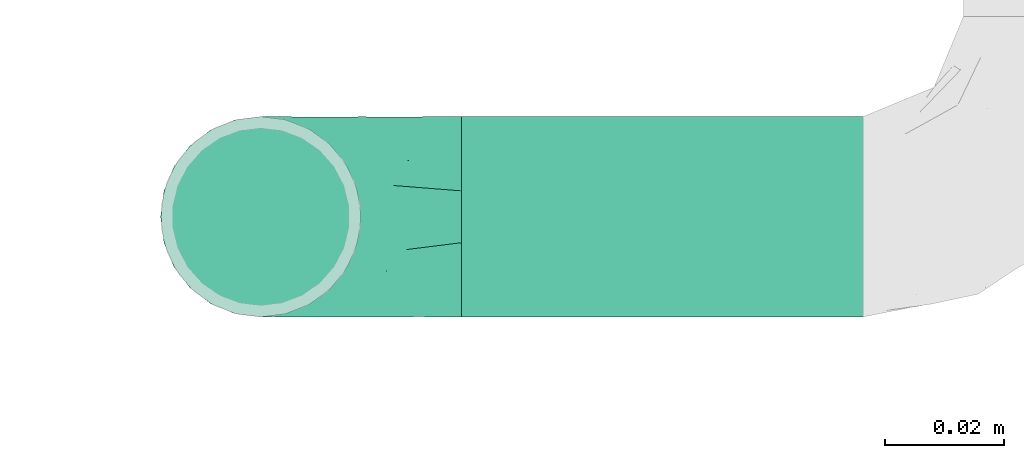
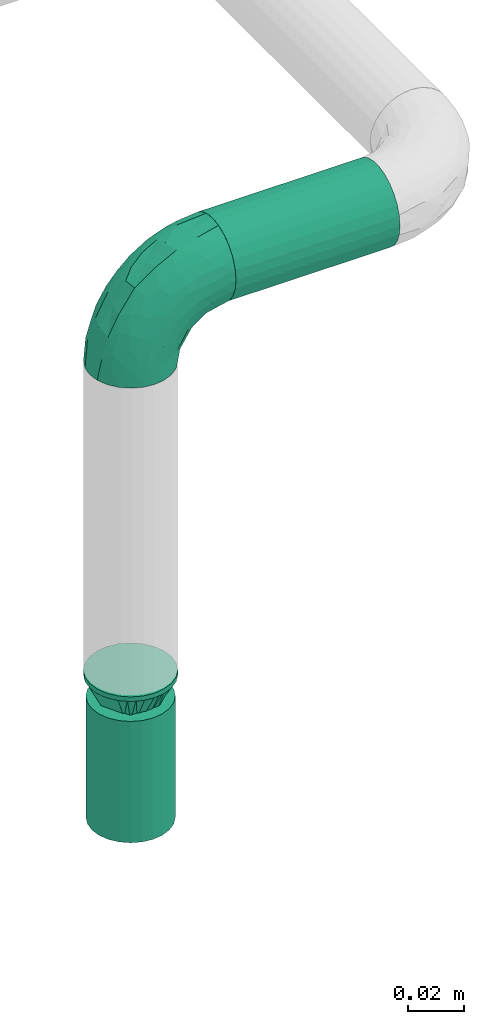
# One storey, part 56 of 157: 2 flow fittings, 1 flow segment, 1 flow terminal.
"""IFC2X3 building model written with IfcOpenShell, lengths in millimetres."""

from ifc_helpers import new_model, entity, si_unit, converted_unit, derived_unit, direction, frame, origin_with_axes, origin_2d_with_axis, place, context, subcontext, project, spatial, hollow_circle, extrude, open_shell, surface_model, source, transform, mapped, type_object, element, save


model = new_model("IFC2X3")

# Units and contexts
model_context = context("Model", 3, precision=0.01, world=frame((0.0, 4.29681676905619e-09, 0.0)), true_north=direction((4.01073788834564e-13, 1.0)))
plan_context = context("Plan", 3, precision=0.01, world=frame((0.0, 4.29681676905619e-09, 0.0)), true_north=direction((4.01073788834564e-13, 1.0)))
body_context = subcontext(model_context, "Body", "Model", "MODEL_VIEW")
ifc_project = project(units=[converted_unit("PLANEANGLEUNIT", "DEGREE", entity("IfcPositiveLengthMeasure", 0.0174532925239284), si_unit("PLANEANGLEUNIT", "RADIAN"), dimensions=[0, 0, 0, 0, 0, 0, 0]), si_unit("AREAUNIT", "SQUARE_METRE"), si_unit("LENGTHUNIT", "METRE", prefix="MILLI"), si_unit("MASSUNIT", "GRAM", prefix="KILO"), si_unit("POWERUNIT", "WATT"), si_unit("PRESSUREUNIT", "PASCAL"), si_unit("FORCEUNIT", "NEWTON", prefix="KILO"), si_unit("ELECTRICCURRENTUNIT", "AMPERE"), si_unit("THERMODYNAMICTEMPERATUREUNIT", "DEGREE_CELSIUS"), si_unit("TIMEUNIT", "SECOND"), si_unit("VOLUMEUNIT", "CUBIC_METRE"), derived_unit("LINEARVELOCITYUNIT", [(si_unit("LENGTHUNIT", "METRE"), 1), (si_unit("TIMEUNIT", "SECOND"), -1)]), derived_unit("VOLUMETRICFLOWRATEUNIT", [(si_unit("VOLUMEUNIT", "CUBIC_METRE"), 1), (si_unit("TIMEUNIT", "SECOND"), -1)]), derived_unit("THERMALTRANSMITTANCEUNIT", [(si_unit("POWERUNIT", "WATT"), 1), (si_unit("THERMODYNAMICTEMPERATUREUNIT", "KELVIN"), -1), (si_unit("AREAUNIT", "SQUARE_METRE"), -1)])], contexts=[model_context, plan_context])

# Site, building, storey
site_placement = place(None, frame((0.0, -4.29681676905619e-09, 0.0), z_axis=(0.0, 0.0, 1.0), x_axis=(1.0, 0.0, 0.0)))
site = spatial("IfcSite", under=ifc_project, at=site_placement, CompositionType="ELEMENT")
building_placement = place(site_placement, frame((0.0, 4.29681676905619e-09, 0.0), z_axis=(0.0, 0.0, 1.0), x_axis=(1.0, 0.0, 0.0)))
building = spatial("IfcBuilding", under=site, at=building_placement, Name="mc-building", CompositionType="ELEMENT")
storey_placement = place(building_placement, frame((0.0, 0.0, 204000.0), z_axis=(0.0, 0.0, 1.0), x_axis=(1.0, 0.0, 0.0)))
storey = spatial("IfcBuildingStorey", under=building, at=storey_placement, Name="Nivå D", CompositionType="ELEMENT", Elevation=204000.0)

# Flow fittings
pipe_fitting_type_1 = type_object("IfcPipeFittingType", Name="magi_pipe_fe_elbow_short_001", PredefinedType="BEND")
shared_shape_1 = source(origin_with_axes(), body_context, "Body", "SurfaceModel", [
    surface_model("IfcShellBasedSurfaceModel", [(-33.8, 8.45, -14.63583), (-33.8, 4.37404, -16.32415), (-33.8, 11.9501, -11.9501), (-33.8, -11.9501, -11.9501), (-33.8, -14.63583, -8.45), (-33.8, -8.45, -14.63583), (-33.8, 0.0, -16.9), (-33.8, -4.37404, -16.32415), (-33.8, -4.37404, 16.32415), (-33.8, 0.0, 16.9), (-33.8, -8.45, 14.63583), (-33.8, 16.32415, -4.37404), (-33.8, 14.63583, -8.45), (-33.8, -16.32415, -4.37404), (-33.8, -16.9, 0.0), (-33.8, -16.32415, 4.37404), (-33.8, 11.9501, 11.9501), (-33.8, 14.63583, 8.45), (-33.8, 16.32415, 4.37404), (-33.8, 4.37404, 16.32415), (-33.8, 8.45, 14.63583), (-33.8, -14.63583, 8.45), (-33.8, -11.9501, 11.9501), (-33.8, 16.9, 0.0), (-11.9501, 33.8, -11.9501), (0.0, 33.8, -16.9), (-4.37404, 33.8, -16.32415), (-8.45, 33.8, -14.63583), (-14.63583, 33.8, -8.45), (-16.32415, 33.8, -4.37404), (14.63583, 33.8, -8.45), (8.45, 33.8, 14.63583), (16.32415, 33.8, -4.37404), (8.45, 33.8, -14.63583), (11.9501, 33.8, -11.9501), (4.37404, 33.8, -16.32415), (16.32415, 33.8, 4.37404), (16.9, 33.8, 0.0), (-11.9501, 33.8, 11.9501), (-16.32415, 33.8, 4.37404), (-14.63583, 33.8, 8.45), (-8.45, 33.8, 14.63583), (-4.37404, 33.8, 16.32415), (11.9501, 33.8, 11.9501), (14.63583, 33.8, 8.45), (0.0, 33.8, 16.9), (4.37404, 33.8, 16.32415), (-16.9, 33.8, 0.0), (-24.79389, -13.12945, 9.48721), (-22.19287, -9.75018, 12.59315), (-24.09897, -14.97035, 0.0), (-14.93934, -10.76256, 8.5297), (-22.46095, -14.75051, 5.27077), (14.75051, 22.46094, 5.27077), (11.9251, 13.23888, 4.33236), (13.04069, 14.39795, 0.0), (7.71387, 13.68847, 11.55891), (9.75018, 22.19287, 12.59315), (4.10169, 13.0571, 14.04018), (-24.84007, -6.39063, 15.2048), (-25.81779, -2.23879, 16.61097), (-23.66549, 2.59054, 16.87119), (-26.50418, 14.06512, 11.08152), (-24.21253, 17.66365, 7.72657), (-29.58514, 15.86957, 7.00283), (-6.17382, -7.5455, 0.0), (-13.23888, -11.9251, 4.33236), (-14.39795, -13.04069, 0.0), (-17.81434, 18.87373, 11.97104), (-6.30846, 29.15138, 15.82987), (-2.31622, 25.28002, 16.85849), (-29.23923, 10.23435, 13.77053), (-1.45439, -2.85688, 7.61475), (-0.28326, 0.34872, 10.09509), (-5.74484, -4.04709, 10.4122), (-4.41137, 11.31918, 16.59407), (-8.39727, 3.10034, 15.7812), (-1.72649, 9.1306, 15.53089), (-17.39909, 24.75344, 7.64977), (-26.19233, 20.0512, 0.0), (-28.14518, 17.29657, 4.25857), (-26.05147, 6.6281, 15.96447), (-5.87354, 16.61944, 16.86968), (-12.51807, 12.51807, 16.48937), (-10.06312, 7.38516, 16.81295), (-3.01882, 3.01882, 13.81718), (-13.0571, -4.10169, 14.04018), (-16.82553, -0.15166, 16.38038), (10.76256, 14.93934, 8.5297), (13.12945, 24.79389, 9.48721), (6.39063, 24.84007, 15.2048), (2.23879, 25.81779, 16.61097), (-13.68847, -7.71387, 11.55891), (14.97035, 24.09897, 0.0), (-7.30894, 22.89991, 16.09489), (-10.67958, 26.17414, 14.008), (-12.78295, 18.26924, 15.06066), (-13.88562, 22.45231, 12.93244), (-18.04944, 15.16501, 14.04434), (-23.11658, 20.08178, 4.02986), (-21.84989, 21.84989, 0.0), (-18.55817, 25.48277, 3.93065), (-13.95142, 26.94732, 11.03289), (-18.57098, 7.23906, 16.59756), (-16.58335, 4.14122, 16.89279), (-17.96666, 11.46709, 15.63151), (-9.84453, 17.54304, 16.18938), (0.15166, 16.82553, 16.38038), (-23.27207, 11.47201, 14.23154), (3.84842, 5.86994, 10.70473), (-8.0212, -7.54413, 7.93275), (1.00345, -2.19508, 4.57414), (5.13203, 3.01004, 5.90201), (5.24161, 1.7543, 2.53265), (8.70457, 7.04947, 3.99182), (-20.0512, 26.19233, 0.0), (8.4852, 8.76699, 7.09296), (-4.55488, -6.72064, 4.90681), (2.05031, -2.05031, 0.0), (7.5455, 6.17382, 0.0), (-26.75399, 2.1369, -16.845), (-14.61995, 24.73803, -11.27736), (-28.45274, -13.45335, -9.81895), (-26.00469, 6.63555, -15.96645), (-23.06726, 20.04573, -4.26202), (-13.80647, -4.26506, -14.17873), (-14.67501, -0.21081, -16.07388), (-6.7902, -0.2828, -13.8478), (-24.53586, 11.08096, -14.13417), (-26.72048, 14.00837, -11.05776), (10.0967, 24.44989, -12.75976), (5.83237, 21.40218, -15.03047), (6.66249, 28.54238, -15.38093), (-20.38182, 15.48705, -12.74596), (12.53268, 21.23441, -9.15363), (12.54494, 15.67504, -5.54878), (9.7522, 12.89279, -8.66343), (-15.65186, 19.64213, -13.01327), (-12.03528, 20.66498, -14.67665), (-15.61907, 15.61906, -14.83879), (-25.56551, -15.26206, 0.0), (-24.65452, -15.12934, -5.50955), (13.45335, 28.45274, -9.81895), (15.12934, 24.65452, -5.50955), (-7.35442, -8.31014, -5.65563), (-15.67504, -12.54494, -5.54878), (-24.44989, -10.0967, -12.75976), (0.16522, 0.41303, -9.71728), (-5.70658, -5.33066, -8.89288), (-5.13869, -2.37198, -11.53565), (-21.23441, -12.53268, -9.15363), (0.71146, 7.93863, -14.09382), (0.21081, 14.67501, -16.07388), (3.49291, 14.42772, -14.76381), (-24.89911, -2.13088, -16.591), (-28.54238, -6.66249, -15.38093), (-18.44386, -7.71663, -13.26957), (2.13088, 24.89911, -16.591), (-28.64342, 17.44413, -2.89318), (1.70017, -1.28722, -5.09504), (-16.57067, 26.81947, -7.36596), (-17.69055, 27.4263, -3.76405), (-12.89279, -9.7522, -8.66343), (-5.96611, 5.96611, -15.95814), (-20.53709, 20.09345, -8.28985), (-2.1369, 26.75399, -16.845), (-6.89872, 24.58781, -16.02578), (-10.60739, 26.53157, -13.98044), (-21.40218, -5.83237, -15.03047), (2.93192, 5.89627, -11.55917), (6.89393, 12.61842, -11.82233), (5.58056, 5.95325, -8.79455), (-3.99512, 18.61798, -16.89635), (8.31014, 7.35442, -5.65563), (-9.1383, 9.86148, -16.89041), (-9.99983, 16.02119, -16.39699), (-16.68576, 9.78031, -16.34199), (-27.01915, 16.61158, -7.12979), (15.26206, 25.56551, 0.0), (-18.61798, 3.99512, -16.89635), (-19.37495, 27.82495, 0.0), (-12.61842, -6.89393, -11.82233), (-18.84705, 19.14018, -10.96545)], [open_shell([[[0, 1, 2]], [[3, 4, 5]], [[6, 7, 5]], [[8, 9, 10]], [[1, 6, 2]], [[11, 12, 2]], [[4, 2, 6]], [[2, 13, 10]], [[5, 4, 6]], [[2, 4, 13]], [[14, 15, 13]], [[11, 2, 16]], [[11, 17, 18]], [[11, 16, 17]], [[19, 20, 16]], [[16, 2, 10]], [[19, 16, 10]], [[21, 22, 15]], [[22, 13, 15]], [[22, 10, 13]], [[10, 9, 19]], [[11, 18, 23]], [[24, 25, 26]], [[24, 26, 27]], [[24, 28, 29]], [[25, 24, 30]], [[31, 32, 24]], [[33, 30, 34]], [[33, 35, 25]], [[25, 30, 33]], [[32, 30, 24]], [[32, 36, 37]], [[38, 24, 29]], [[39, 40, 29]], [[40, 38, 29]], [[38, 41, 42]], [[38, 31, 24]], [[31, 38, 42]], [[36, 43, 44]], [[36, 32, 43]], [[31, 45, 46]], [[32, 31, 43]], [[42, 45, 31]], [[39, 29, 47]], [[22, 48, 49]], [[15, 14, 50]], [[51, 48, 52]], [[53, 54, 55]], [[48, 22, 21]], [[15, 52, 21]], [[56, 57, 58]], [[49, 10, 22]], [[49, 59, 10]], [[9, 60, 61]], [[62, 63, 64]], [[65, 66, 67]], [[57, 43, 31]], [[62, 68, 63]], [[42, 69, 70]], [[20, 71, 16]], [[8, 60, 9]], [[72, 73, 74]], [[75, 76, 77]], [[16, 62, 17]], [[40, 39, 78]], [[79, 23, 80]], [[64, 18, 17]], [[9, 61, 19]], [[19, 81, 20]], [[82, 83, 84]], [[74, 85, 86]], [[59, 86, 87]], [[88, 89, 57]], [[90, 31, 46]], [[44, 53, 36]], [[46, 45, 91]], [[54, 53, 88]], [[44, 89, 53]], [[92, 86, 49]], [[89, 44, 43]], [[10, 59, 8]], [[53, 55, 93]], [[93, 36, 53]], [[66, 52, 67]], [[94, 82, 70]], [[95, 96, 94]], [[97, 98, 96]], [[79, 99, 100]], [[41, 38, 95]], [[101, 100, 99]], [[68, 78, 63]], [[42, 41, 69]], [[23, 18, 80]], [[95, 94, 69]], [[78, 101, 99]], [[38, 102, 95]], [[70, 45, 42]], [[97, 95, 102]], [[15, 50, 52]], [[90, 57, 31]], [[57, 90, 58]], [[81, 19, 61]], [[103, 104, 84]], [[105, 81, 103]], [[38, 40, 102]], [[106, 96, 83]], [[94, 106, 82]], [[91, 70, 107]], [[71, 62, 16]], [[62, 108, 98]], [[86, 59, 49]], [[67, 52, 50]], [[60, 59, 87]], [[92, 49, 51]], [[86, 85, 76]], [[91, 90, 46]], [[37, 36, 93]], [[107, 77, 58]], [[107, 58, 90]], [[58, 85, 109]], [[110, 74, 92]], [[72, 74, 110]], [[66, 51, 52]], [[72, 111, 112]], [[113, 114, 112]], [[56, 88, 57]], [[52, 48, 21]], [[49, 48, 51]], [[57, 89, 43]], [[53, 89, 88]], [[103, 81, 61]], [[71, 81, 108]], [[18, 64, 80]], [[63, 78, 99]], [[47, 115, 101]], [[101, 115, 100]], [[40, 78, 102]], [[68, 102, 78]], [[97, 96, 95]], [[105, 98, 108]], [[103, 84, 83]], [[107, 70, 82]], [[76, 84, 87]], [[82, 84, 75]], [[70, 91, 45]], [[90, 91, 107]], [[59, 60, 8]], [[61, 60, 87]], [[73, 85, 74]], [[109, 112, 116]], [[103, 61, 104]], [[105, 103, 83]], [[96, 105, 83]], [[81, 105, 108]], [[96, 98, 105]], [[62, 98, 68]], [[61, 87, 104]], [[87, 84, 104]], [[86, 76, 87]], [[77, 76, 85]], [[58, 77, 85]], [[75, 77, 107]], [[82, 75, 107]], [[76, 75, 84]], [[81, 71, 20]], [[62, 71, 108]], [[95, 69, 41]], [[70, 69, 94]], [[62, 64, 17]], [[80, 63, 99]], [[63, 80, 64]], [[80, 99, 79]], [[66, 65, 117]], [[110, 66, 117]], [[112, 114, 116]], [[118, 117, 65]], [[110, 92, 51]], [[112, 111, 113]], [[119, 55, 54]], [[74, 86, 92]], [[58, 109, 56]], [[116, 56, 109]], [[66, 110, 51]], [[72, 110, 117]], [[111, 72, 117]], [[73, 112, 109]], [[117, 118, 111]], [[113, 111, 118]], [[118, 119, 113]], [[114, 119, 54]], [[119, 114, 113]], [[116, 54, 88]], [[54, 116, 114]], [[116, 88, 56]], [[112, 73, 72]], [[85, 73, 109]], [[78, 39, 101]], [[47, 101, 39]], [[102, 68, 97]], [[97, 68, 98]], [[82, 106, 83]], [[94, 96, 106]], [[1, 120, 6]], [[28, 24, 121]], [[3, 122, 4]], [[0, 123, 1]], [[100, 124, 79]], [[125, 126, 127]], [[128, 2, 129]], [[130, 131, 132]], [[128, 129, 133]], [[134, 135, 136]], [[137, 138, 139]], [[128, 0, 2]], [[67, 140, 141]], [[134, 142, 143]], [[141, 13, 4]], [[144, 65, 145]], [[146, 3, 5]], [[147, 148, 149]], [[145, 141, 150]], [[151, 152, 153]], [[154, 7, 6]], [[5, 155, 146]], [[150, 146, 156]], [[155, 5, 7]], [[143, 135, 134]], [[35, 157, 25]], [[23, 79, 158]], [[148, 159, 144]], [[160, 161, 29]], [[145, 162, 144]], [[163, 152, 151]], [[29, 28, 160]], [[121, 164, 160]], [[33, 34, 130]], [[25, 165, 26]], [[26, 165, 166]], [[142, 34, 30]], [[24, 27, 167]], [[124, 161, 164]], [[157, 35, 132]], [[155, 154, 168]], [[123, 0, 128]], [[169, 170, 171]], [[172, 157, 152]], [[26, 166, 27]], [[132, 35, 33]], [[142, 130, 34]], [[168, 154, 126]], [[136, 135, 173]], [[133, 137, 139]], [[2, 12, 129]], [[170, 131, 130]], [[30, 32, 143]], [[172, 174, 175]], [[176, 123, 128]], [[158, 177, 11]], [[135, 55, 119]], [[167, 27, 166]], [[175, 166, 172]], [[137, 167, 138]], [[122, 141, 4]], [[140, 14, 13]], [[32, 37, 178]], [[170, 130, 134]], [[152, 157, 131]], [[165, 157, 172]], [[153, 170, 151]], [[152, 163, 174]], [[168, 125, 156]], [[122, 146, 150]], [[120, 154, 6]], [[179, 174, 126]], [[179, 126, 154]], [[126, 163, 127]], [[162, 145, 150]], [[140, 13, 141]], [[32, 178, 143]], [[55, 143, 178]], [[177, 129, 12]], [[128, 133, 139]], [[176, 128, 139]], [[120, 123, 179]], [[121, 160, 28]], [[161, 100, 180]], [[166, 175, 138]], [[121, 24, 167]], [[161, 47, 29]], [[79, 124, 158]], [[124, 164, 177]], [[161, 124, 100]], [[136, 171, 170]], [[127, 163, 151]], [[147, 171, 159]], [[148, 144, 162]], [[127, 151, 169]], [[127, 181, 125]], [[129, 177, 164]], [[12, 11, 177]], [[159, 65, 144]], [[67, 141, 145]], [[143, 55, 135]], [[135, 119, 173]], [[123, 120, 1]], [[154, 120, 179]], [[157, 165, 25]], [[166, 165, 172]], [[172, 152, 174]], [[176, 139, 175]], [[126, 174, 163]], [[176, 174, 179]], [[174, 176, 175]], [[123, 176, 179]], [[150, 181, 162]], [[127, 149, 181]], [[181, 148, 162]], [[159, 148, 147]], [[171, 136, 173]], [[170, 134, 136]], [[159, 171, 173]], [[171, 147, 169]], [[169, 147, 149]], [[151, 170, 169]], [[164, 182, 129]], [[182, 121, 137]], [[181, 149, 148]], [[169, 149, 127]], [[182, 137, 133]], [[167, 137, 121]], [[166, 138, 167]], [[175, 139, 138]], [[129, 182, 133]], [[121, 182, 164]], [[161, 160, 164]], [[47, 161, 180]], [[177, 158, 124]], [[23, 158, 11]], [[130, 132, 33]], [[157, 132, 131]], [[143, 142, 30]], [[130, 142, 134]], [[154, 155, 7]], [[146, 155, 168]], [[146, 122, 3]], [[141, 122, 150]], [[152, 131, 153]], [[159, 119, 118]], [[67, 145, 65]], [[170, 153, 131]], [[119, 159, 173]], [[159, 118, 65]], [[156, 125, 181]], [[126, 125, 168]], [[150, 156, 181]], [[168, 156, 146]]])]),
])
flow_fitting_1_placement = place(storey_placement, frame((521500.0, 410600.0, 2880.0), z_axis=(0.0, 1.0, 0.0), x_axis=(0.0, 0.0, 1.0)))
element("IfcFlowFitting", 1, at=flow_fitting_1_placement, inside=storey, type_object=pipe_fitting_type_1, Name="magi_pipe_fe_elbow_short_001", context=body_context, shape_type="MappedRepresentation", body=[
    mapped(shared_shape_1, transform((0.0, 0.0, 0.0), scale=1.0)),
])
pipe_fitting_type_2 = type_object("IfcPipeFittingType", Name="magi_pipe_fe_reducer_centric_short_NOR", PredefinedType="TRANSITION")
shared_shape_2 = source(origin_with_axes(), body_context, "Body", "SurfaceModel", [
    surface_model("IfcShellBasedSurfaceModel", [(-2.0, -7.56604, -7.56604), (-2.0, -10.33541, -2.76936), (-2.0, -5.35, -9.26647), (-2.0, 5.35, -9.26647), (-2.0, 10.33541, -2.76936), (-2.0, 7.56604, -7.56604), (12.4, 11.9501, 11.9501), (12.4, 0.0, 16.9), (12.4, 11.9501, -11.9501), (12.4, 16.9, 0.0), (0.0, -10.7, 0.0), (0.0, -5.35, 9.26647), (0.0, -5.35, -9.26647), (0.0, 10.7, 0.0), (12.4, 15.66253, -2.98753), (12.4, 8.96258, -13.18758), (0.0, 6.6875, -6.94985), (12.4, -15.66253, -2.98753), (12.4, -16.9, 0.0), (12.4, 5.97505, -14.42505), (0.0, 5.35, -9.26647), (12.4, 14.42505, -5.97505), (0.0, 8.025, -4.63324), (0.0, 9.3625, -2.31662), (0.0, -9.3625, -2.31662), (0.0, -8.025, -4.63324), (12.4, -14.42505, -5.97505), (12.4, 13.18758, -8.96258), (12.4, -13.18758, -8.96258), (12.4, -11.9501, -11.9501), (0.0, -6.6875, -6.94985), (12.4, -8.96258, -13.18758), (12.4, -5.97505, -14.42505), (12.4, -15.66253, 2.98753), (12.4, -8.96258, 13.18758), (0.0, -6.6875, 6.94985), (12.4, -11.9501, 11.9501), (12.4, 15.66253, 2.98753), (12.4, -5.97505, 14.42505), (12.4, -14.42505, 5.97505), (0.0, -8.025, 4.63324), (0.0, -9.3625, 2.31662), (0.0, 9.3625, 2.31662), (0.0, 8.025, 4.63324), (12.4, 14.42505, 5.97505), (12.4, -13.18758, 8.96258), (12.4, 13.18758, 8.96258), (0.0, 6.6875, 6.94985), (12.4, 8.96258, 13.18758), (0.0, 5.35, 9.26647), (12.4, 5.97505, 14.42505), (14.4, 4.37404, -16.32415), (14.4, 8.45, -14.63583), (14.4, 11.9501, -11.9501), (14.4, -8.45, -14.63583), (14.4, 16.32415, -4.37404), (14.4, 16.32415, 4.37404), (14.4, 14.63583, -8.45), (14.4, 0.0, -16.9), (14.4, -4.37404, -16.32415), (14.4, -11.9501, -11.9501), (14.4, -16.32415, -4.37404), (14.4, -14.63583, -8.45), (14.4, -16.32415, 4.37404), (14.4, 16.9, 0.0), (14.4, 14.63583, 8.45), (14.4, 11.9501, 11.9501), (14.4, 4.37404, 16.32415), (14.4, 8.45, 14.63583), (14.4, 0.0, 16.9), (14.4, -14.63583, 8.45), (14.4, -16.9, 0.0), (14.4, -8.45, 14.63583), (14.4, -11.9501, 11.9501), (14.4, -4.37404, 16.32415), (12.4, 4.37404, 16.32415), (12.4, -14.63583, 8.45), (12.4, 16.32415, 4.37404), (12.4, 8.45, 14.63583), (12.4, 14.63583, 8.45), (12.4, -8.45, 14.63583), (12.4, -4.37404, 16.32415), (12.4, -16.32415, 4.37404), (12.4, -16.32415, -4.37404), (12.4, -8.45, -14.63583), (12.4, 16.32415, -4.37404), (12.4, 14.63583, -8.45), (12.4, 8.45, -14.63583), (12.4, 4.37404, -16.32415), (12.4, 0.0, -16.9), (12.4, -14.63583, -8.45), (12.4, -4.37404, -16.32415), (-2.0, 2.76936, 10.33541), (-2.0, 0.0, 10.7), (-2.0, 5.35, 9.26647), (-2.0, 7.56604, 7.56604), (-2.0, 9.26647, 5.35), (-2.0, 10.33541, 2.76936), (-2.0, -10.33541, 2.76936), (-2.0, -2.76936, 10.33541), (-2.0, -7.56604, 7.56604), (-2.0, -5.35, 9.26647), (-2.0, -9.26647, 5.35), (-2.0, -10.7, 0.0), (-2.0, 9.26647, -5.35), (-2.0, 2.76936, -10.33541), (-2.0, -9.26647, -5.35), (-2.0, 0.0, -10.7), (-2.0, -2.76936, -10.33541), (-2.0, 10.7, 0.0), (0.0, 0.0, -10.7), (0.0, 2.76936, -10.33541), (0.0, 10.33541, -2.76936), (0.0, 7.56604, -7.56604), (0.0, -10.33541, -2.76936), (0.0, 9.26647, -5.35), (0.0, 0.0, 10.7), (0.0, -2.76936, -10.33541), (0.0, -7.56604, -7.56604), (0.0, -9.26647, -5.35), (0.0, 10.33541, 2.76936), (0.0, 9.26647, 5.35), (0.0, 7.56604, 7.56604), (0.0, 2.76936, 10.33541), (0.0, -7.56604, 7.56604), (0.0, -10.33541, 2.76936), (0.0, -9.26647, 5.35), (0.0, -2.76936, 10.33541), (0.0, 2.675, -9.26647), (0.0, -2.675, -9.26647), (12.4, 2.98753, -15.66253), (0.0, 0.0, -9.26647), (12.4, -2.98753, -15.66253), (0.0, -2.675, 9.26647), (0.0, 2.675, 9.26647), (12.4, -2.98753, 15.66253), (0.0, 0.0, 9.26647), (12.4, 2.98753, 15.66253)], [open_shell([[[0, 1, 2]], [[3, 4, 5]], [[6, 7, 8]], [[8, 9, 6]], [[10, 11, 12]], [[13, 9, 14]], [[15, 16, 8]], [[17, 18, 10]], [[15, 19, 20]], [[21, 22, 23]], [[24, 25, 26]], [[22, 21, 27]], [[28, 26, 25]], [[29, 30, 31]], [[12, 32, 31]], [[10, 18, 33]], [[34, 35, 36]], [[37, 9, 13]], [[34, 38, 11]], [[39, 40, 41]], [[42, 43, 44]], [[40, 39, 45]], [[46, 44, 43]], [[6, 47, 48]], [[49, 50, 48]], [[51, 52, 53]], [[54, 51, 53]], [[53, 55, 56]], [[55, 53, 57]], [[53, 56, 54]], [[58, 54, 59]], [[58, 51, 54]], [[60, 61, 62]], [[61, 60, 54]], [[54, 63, 61]], [[56, 55, 64]], [[56, 65, 66]], [[56, 66, 67]], [[67, 63, 54]], [[67, 66, 68]], [[63, 67, 69]], [[69, 70, 63]], [[71, 61, 63]], [[70, 72, 73]], [[70, 69, 72]], [[72, 69, 74]], [[54, 56, 67]], [[75, 76, 7]], [[77, 75, 78]], [[6, 79, 77]], [[6, 77, 78]], [[76, 75, 77]], [[80, 76, 36]], [[80, 81, 7]], [[7, 76, 80]], [[82, 76, 77]], [[82, 83, 18]], [[82, 77, 84]], [[77, 85, 8]], [[8, 85, 86]], [[8, 87, 88]], [[84, 77, 8]], [[88, 89, 8]], [[83, 29, 90]], [[29, 83, 84]], [[84, 89, 91]], [[83, 82, 84]], [[8, 89, 84]], [[85, 77, 9]], [[83, 61, 18]], [[90, 62, 83]], [[54, 29, 84]], [[90, 29, 60]], [[59, 84, 91]], [[83, 62, 61]], [[61, 71, 18]], [[59, 54, 84]], [[60, 29, 54]], [[60, 62, 90]], [[58, 59, 91]], [[91, 89, 58]], [[88, 51, 89]], [[87, 52, 88]], [[57, 8, 86]], [[87, 8, 53]], [[55, 86, 85]], [[87, 53, 52]], [[52, 51, 88]], [[64, 55, 85]], [[57, 86, 55]], [[57, 53, 8]], [[9, 64, 85]], [[89, 51, 58]], [[77, 56, 9]], [[79, 65, 77]], [[68, 6, 78]], [[79, 6, 66]], [[67, 78, 75]], [[77, 65, 56]], [[56, 64, 9]], [[67, 68, 78]], [[66, 6, 68]], [[66, 65, 79]], [[69, 67, 75]], [[75, 7, 69]], [[81, 74, 7]], [[80, 72, 81]], [[70, 36, 76]], [[80, 36, 73]], [[63, 76, 82]], [[80, 73, 72]], [[72, 74, 81]], [[71, 63, 82]], [[70, 76, 63]], [[70, 73, 36]], [[18, 71, 82]], [[7, 74, 69]], [[92, 1, 93]], [[94, 1, 92]], [[95, 96, 97]], [[95, 97, 94]], [[98, 93, 1]], [[99, 100, 101]], [[99, 93, 100]], [[100, 98, 102]], [[93, 98, 100]], [[98, 1, 103]], [[94, 97, 1]], [[1, 97, 4]], [[5, 4, 104]], [[4, 3, 1]], [[105, 1, 3]], [[1, 0, 106]], [[2, 107, 108]], [[2, 1, 105]], [[105, 107, 2]], [[4, 97, 109]], [[20, 110, 111]], [[112, 20, 113]], [[114, 20, 112]], [[112, 113, 115]], [[116, 114, 112]], [[110, 12, 117]], [[110, 20, 12]], [[118, 114, 119]], [[114, 118, 12]], [[20, 114, 12]], [[112, 13, 120]], [[120, 121, 122]], [[120, 122, 123]], [[116, 112, 123]], [[123, 122, 49]], [[116, 124, 114]], [[125, 124, 126]], [[10, 114, 125]], [[124, 127, 11]], [[125, 114, 124]], [[127, 124, 116]], [[123, 112, 120]], [[1, 114, 103]], [[106, 119, 1]], [[12, 0, 2]], [[106, 0, 118]], [[117, 2, 108]], [[1, 119, 114]], [[114, 10, 103]], [[117, 12, 2]], [[118, 0, 12]], [[118, 119, 106]], [[110, 117, 108]], [[108, 107, 110]], [[105, 111, 107]], [[3, 20, 105]], [[115, 5, 104]], [[3, 5, 113]], [[112, 104, 4]], [[3, 113, 20]], [[20, 111, 105]], [[13, 112, 4]], [[115, 104, 112]], [[115, 113, 5]], [[109, 13, 4]], [[107, 111, 110]], [[97, 120, 109]], [[96, 121, 97]], [[49, 95, 94]], [[96, 95, 122]], [[123, 94, 92]], [[97, 121, 120]], [[120, 13, 109]], [[123, 49, 94]], [[122, 95, 49]], [[122, 121, 96]], [[116, 123, 92]], [[92, 93, 116]], [[99, 127, 93]], [[101, 11, 99]], [[126, 100, 102]], [[101, 100, 124]], [[125, 102, 98]], [[101, 124, 11]], [[11, 127, 99]], [[10, 125, 98]], [[126, 102, 125]], [[126, 124, 100]], [[103, 10, 98]], [[93, 127, 116]], [[18, 7, 36]], [[18, 29, 8]], [[89, 8, 29]], [[18, 8, 7]], [[13, 11, 49]], [[13, 20, 12]], [[13, 12, 11]], [[24, 26, 17]], [[10, 24, 17]], [[16, 15, 20]], [[30, 12, 31]], [[23, 14, 21]], [[19, 128, 20]], [[27, 8, 16]], [[32, 12, 129]], [[30, 28, 25]], [[130, 131, 128]], [[129, 132, 32]], [[16, 22, 27]], [[13, 14, 23]], [[128, 19, 130]], [[130, 89, 131]], [[131, 132, 129]], [[89, 132, 131]], [[28, 30, 29]], [[42, 44, 37]], [[13, 42, 37]], [[35, 34, 11]], [[47, 49, 48]], [[41, 33, 39]], [[38, 133, 11]], [[45, 36, 35]], [[50, 49, 134]], [[47, 46, 43]], [[135, 136, 133]], [[134, 137, 50]], [[35, 40, 45]], [[10, 33, 41]], [[133, 38, 135]], [[135, 7, 136]], [[136, 137, 134]], [[7, 137, 136]], [[46, 47, 6]]])]),
])
flow_fitting_2_placement = place(storey_placement, frame((521500.0, 410600.0, 2696.95199999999), z_axis=(0.0, -1.0, 0.0), x_axis=(0.0, 0.0, 1.0)))
element("IfcFlowFitting", 2, at=flow_fitting_2_placement, inside=storey, type_object=pipe_fitting_type_2, Name="magi_pipe_fe_reducer_centric_short_NOR", context=body_context, shape_type="MappedRepresentation", body=[
    mapped(shared_shape_2, transform((0.0, 0.0, 0.0), scale=1.0)),
])

# Flow segment
pipe_segment_type = type_object("IfcPipeSegmentType", Name="Stålrør normaltykke", PredefinedType="RIGIDSEGMENT")
shared_shape_3 = source(origin_with_axes(), body_context, "Body", "SweptSolid", [
    extrude(hollow_circle(Radius=16.9, WallThickness=2.0, at=origin_2d_with_axis()), frame((0.0, 0.0, 0.0), z_axis=(1.0, 0.0, 0.0), x_axis=(0.0, 1.0, 0.0)), (0.0, 0.0, 1.0), 67.8),
])
flow_segment_placement = place(storey_placement, frame((521533.8, 410600.0, 2880.0), z_axis=(0.0, 0.0, 1.0), x_axis=(1.0, 0.0, 0.0)))
element("IfcFlowSegment", 3, at=flow_segment_placement, inside=storey, type_object=pipe_segment_type, Name="Stålrør normaltykke", context=body_context, shape_type="MappedRepresentation", body=[
    mapped(shared_shape_3, transform((0.0, 0.0, 0.0), scale=1.0)),
])

# Flow terminal
fire_suppression_terminal_type = type_object("IfcFireSuppressionTerminalType", Name="SP-15-K80-68DGR-STD-HIMLING", PredefinedType="NOTDEFINED")
shared_shape_4 = source(origin_with_axes(), body_context, "Body", "SurfaceModel", [
    surface_model("IfcShellBasedSurfaceModel", [(4.1411, -15.45481, 53.0), (8.0, -13.85641, 53.0), (11.31371, -11.31371, 53.0), (-8.0, -13.85641, 53.0), (15.45481, -4.1411, 53.0), (16.0, 0.0, 53.0), (13.85641, -8.0, 53.0), (0.0, -16.0, 53.0), (-4.1411, -15.45481, 53.0), (-13.85641, -8.0, 53.0), (-11.31371, -11.31371, 53.0), (-15.45481, -4.1411, 53.0), (15.45481, 4.1411, 53.0), (13.85641, 8.0, 53.0), (11.31371, 11.31371, 53.0), (-4.1411, 15.45481, 53.0), (8.0, 13.85641, 53.0), (4.1411, 15.45481, 53.0), (0.0, 16.0, 53.0), (-13.85641, 8.0, 53.0), (-15.45481, 4.1411, 53.0), (-16.0, 0.0, 53.0), (-11.31371, 11.31371, 53.0), (-8.0, 13.85641, 53.0), (0.0, 16.0, 0.0), (4.1411, 15.45481, 0.0), (8.0, 13.85641, 0.0), (-4.1411, 15.45481, 0.0), (11.31371, 11.31371, 0.0), (13.85641, 8.0, 0.0), (15.45481, 4.1411, 0.0), (-15.45481, -4.1411, 0.0), (-11.31371, 11.31371, 0.0), (-8.0, 13.85641, 0.0), (-13.85641, 8.0, 0.0), (-15.45481, 4.1411, 0.0), (-16.0, 0.0, 0.0), (4.1411, -15.45481, 0.0), (16.0, 0.0, 0.0), (15.45481, -4.1411, 0.0), (13.85641, -8.0, 0.0), (11.31371, -11.31371, 0.0), (8.0, -13.85641, 0.0), (-8.0, -13.85641, 0.0), (-13.85641, -8.0, 0.0), (-11.31371, -11.31371, 0.0), (0.0, -16.0, 0.0), (-4.1411, -15.45481, 0.0)], [open_shell([[[0, 1, 2]], [[3, 0, 2]], [[4, 5, 2]], [[4, 2, 6]], [[3, 2, 5]], [[7, 3, 8]], [[7, 0, 3]], [[3, 9, 10]], [[9, 3, 11]], [[5, 11, 3]], [[5, 12, 11]], [[12, 13, 14]], [[15, 12, 14]], [[16, 17, 18]], [[14, 16, 15]], [[18, 15, 16]], [[11, 19, 20]], [[21, 11, 20]], [[22, 15, 23]], [[15, 22, 19]], [[19, 11, 15]], [[11, 12, 15]], [[24, 25, 26]], [[27, 24, 26]], [[28, 29, 30]], [[27, 26, 28]], [[27, 28, 31]], [[27, 32, 33]], [[32, 27, 34]], [[34, 31, 35]], [[31, 34, 27]], [[35, 31, 36]], [[28, 30, 31]], [[37, 38, 39]], [[37, 39, 40]], [[41, 42, 37]], [[41, 37, 40]], [[38, 37, 43]], [[44, 43, 45]], [[43, 44, 31]], [[43, 46, 47]], [[43, 31, 38]], [[37, 46, 43]], [[38, 31, 30]], [[11, 31, 44]], [[45, 9, 44]], [[3, 43, 47]], [[45, 43, 10]], [[8, 47, 46]], [[31, 21, 36]], [[31, 11, 21]], [[44, 9, 11]], [[45, 10, 9]], [[3, 10, 43]], [[47, 8, 3]], [[46, 7, 8]], [[0, 37, 42]], [[41, 1, 42]], [[6, 40, 39]], [[41, 40, 2]], [[4, 39, 38]], [[37, 0, 7]], [[42, 1, 0]], [[41, 2, 1]], [[40, 6, 2]], [[4, 6, 39]], [[38, 5, 4]], [[37, 7, 46]], [[12, 38, 30]], [[13, 30, 29]], [[16, 26, 25]], [[17, 25, 24]], [[30, 13, 12]], [[12, 5, 38]], [[28, 14, 13]], [[28, 26, 14]], [[14, 26, 16]], [[25, 17, 16]], [[28, 13, 29]], [[24, 18, 17]], [[15, 27, 33]], [[32, 23, 33]], [[19, 34, 35]], [[32, 34, 22]], [[20, 35, 36]], [[27, 15, 18]], [[33, 23, 15]], [[32, 22, 23]], [[34, 19, 22]], [[20, 19, 35]], [[36, 21, 20]], [[27, 18, 24]]])]),
])
flow_terminal_placement = place(storey_placement, frame((521500.0, 410600.0, 2700.0), z_axis=(0.0, 0.0, -1.0), x_axis=(1.0, 0.0, 0.0)))
element("IfcFlowTerminal", 4, at=flow_terminal_placement, inside=storey, type_object=fire_suppression_terminal_type, Name="SP-15-K80-68DGR-STD-HIMLING", context=body_context, shape_type="MappedRepresentation", body=[
    mapped(shared_shape_4, transform((0.0, 0.0, 0.0), scale=1.0)),
])

save(model, "model.ifc")
